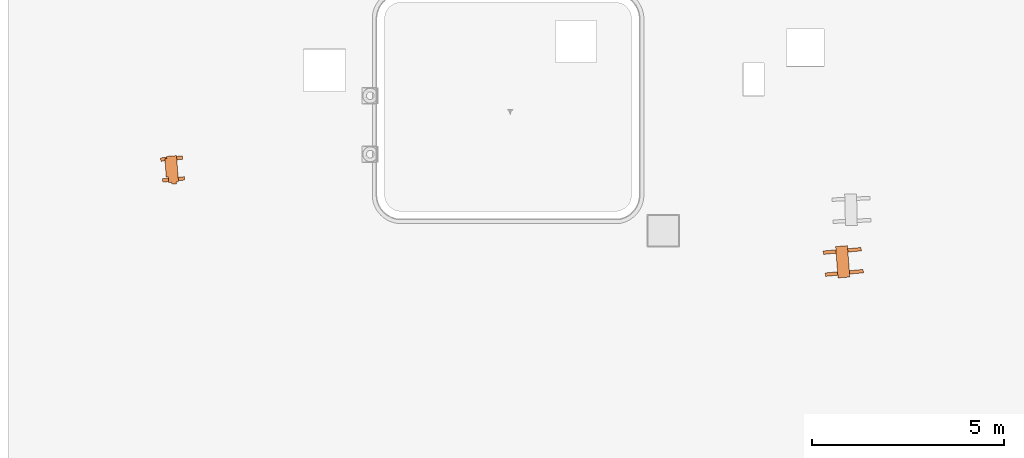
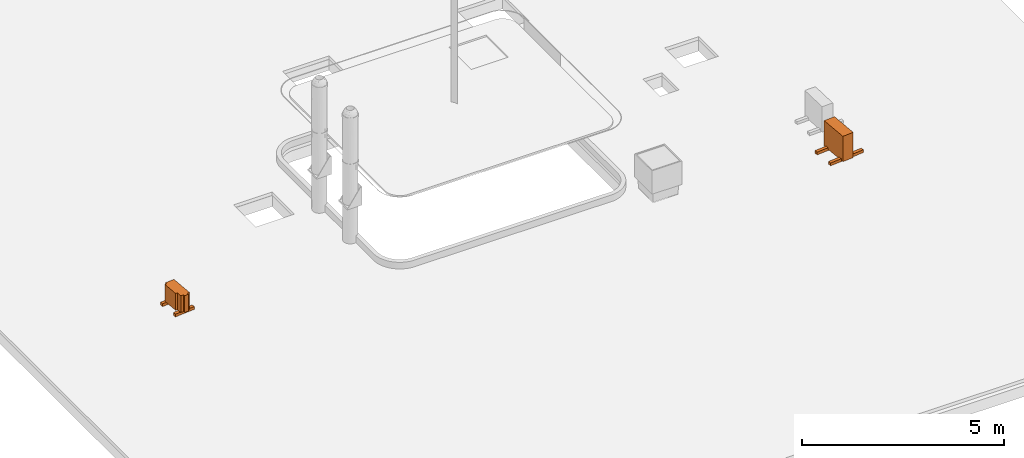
# One storey, part 2 of 2: 2 proxies.
"""IFC2X3 building model written with IfcOpenShell, lengths in metres."""

from ifc_helpers import new_model, entity, si_unit, converted_unit, derived_unit, direction, frame, frame_2d, origin, place, context, subcontext, project, spatial, polyline, rectangle, outline, extrude, source, transform, mapped, material, type_object, type_shapes, element, save


model = new_model("IFC2X3")

# Units and contexts
model_context = context("Model", 3, precision=1e-05, world=origin(), true_north=direction((6.12303176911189e-17, 1.0)))
body_context = subcontext(model_context, "Body", "Model", "MODEL_VIEW")
ifc_project = project(units=[si_unit("LENGTHUNIT", "METRE"), si_unit("AREAUNIT", "SQUARE_METRE"), si_unit("VOLUMEUNIT", "CUBIC_METRE"), converted_unit("PLANEANGLEUNIT", "DEGREE", entity("IfcRatioMeasure", 0.0174532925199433), si_unit("PLANEANGLEUNIT", "RADIAN"), dimensions=[0, 0, 0, 0, 0, 0, 0]), si_unit("MASSUNIT", "GRAM", prefix="KILO"), derived_unit("MASSDENSITYUNIT", [(si_unit("MASSUNIT", "GRAM", prefix="KILO"), 1), (si_unit("LENGTHUNIT", "METRE"), -3)]), derived_unit("MOMENTOFINERTIAUNIT", [(si_unit("LENGTHUNIT", "METRE"), 4)]), si_unit("TIMEUNIT", "SECOND"), si_unit("FREQUENCYUNIT", "HERTZ"), si_unit("THERMODYNAMICTEMPERATUREUNIT", "DEGREE_CELSIUS"), derived_unit("THERMALTRANSMITTANCEUNIT", [(si_unit("MASSUNIT", "GRAM", prefix="KILO"), 1), (si_unit("THERMODYNAMICTEMPERATUREUNIT", "KELVIN"), -1), (si_unit("TIMEUNIT", "SECOND"), -3)]), derived_unit("VOLUMETRICFLOWRATEUNIT", [(si_unit("LENGTHUNIT", "METRE"), 3), (si_unit("TIMEUNIT", "SECOND"), -1)]), si_unit("ELECTRICCURRENTUNIT", "AMPERE"), si_unit("ELECTRICVOLTAGEUNIT", "VOLT"), si_unit("POWERUNIT", "WATT"), si_unit("FORCEUNIT", "NEWTON", prefix="KILO"), si_unit("ILLUMINANCEUNIT", "LUX"), si_unit("LUMINOUSFLUXUNIT", "LUMEN"), si_unit("LUMINOUSINTENSITYUNIT", "CANDELA"), derived_unit("USERDEFINED", [(si_unit("MASSUNIT", "GRAM", prefix="KILO"), -1), (si_unit("LENGTHUNIT", "METRE"), -2), (si_unit("TIMEUNIT", "SECOND"), 3), (si_unit("LUMINOUSFLUXUNIT", "LUMEN"), 1)]), derived_unit("LINEARVELOCITYUNIT", [(si_unit("LENGTHUNIT", "METRE"), 1), (si_unit("TIMEUNIT", "SECOND"), -1)]), si_unit("PRESSUREUNIT", "PASCAL"), derived_unit("USERDEFINED", [(si_unit("LENGTHUNIT", "METRE"), -2), (si_unit("MASSUNIT", "GRAM", prefix="KILO"), 1), (si_unit("TIMEUNIT", "SECOND"), -2)]), derived_unit("LINEARFORCEUNIT", [(si_unit("MASSUNIT", "GRAM", prefix="KILO"), 1), (si_unit("LENGTHUNIT", "METRE"), 1), (si_unit("TIMEUNIT", "SECOND"), -2), (si_unit("LENGTHUNIT", "METRE"), -1)]), derived_unit("PLANARFORCEUNIT", [(si_unit("MASSUNIT", "GRAM", prefix="KILO"), 1), (si_unit("LENGTHUNIT", "METRE"), 1), (si_unit("TIMEUNIT", "SECOND"), -2), (si_unit("LENGTHUNIT", "METRE"), -2)])], contexts=[model_context])

# Site, building, storey
site_placement = place(None, origin())
site = spatial("IfcSite", under=ifc_project, at=site_placement, Name="Default", CompositionType="ELEMENT")
building_placement = place(site_placement, origin())
building = spatial("IfcBuilding", under=site, at=building_placement, CompositionType="ELEMENT")
storey_placement = place(building_placement, frame((0.0, 0.0, 10.7533082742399)))
storey = spatial("IfcBuildingStorey", under=building, at=storey_placement, Name="Niveau 3", CompositionType="ELEMENT", Elevation=10.7533082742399)

# Proxies
ifc_material = material(Name="@_Peinture Gris Anthracite")
building_element_proxy_type_1 = type_object("IfcBuildingElementProxyType", Name="Conduit Gaz1:Conduit Gaz", PredefinedType="NOTDEFINED", material=ifc_material)
shared_shape_1 = source(origin(), body_context, "Body", "SweptSolid", [
    extrude(rectangle(XDim=0.0900431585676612, YDim=0.992739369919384, at=frame_2d((1.07899800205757e-15, -1.11022302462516e-16), x_axis=(1.0, 0.0))), frame((-3.87860790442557, -9.84212219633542, 10.8533082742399), z_axis=(0.0, 0.0, 1.0), x_axis=(0.0928067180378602, -0.995684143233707, 0.0)), (0.0, 0.0, 1.0), 0.0838898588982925),
    extrude(rectangle(XDim=0.0900431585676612, YDim=0.992739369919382, at=frame_2d((-1.07899800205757e-15, 1.11022302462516e-16), x_axis=(1.0, 0.0))), frame((-3.82527076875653, -10.414353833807, 10.8533082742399), z_axis=(0.0, 0.0, 1.0), x_axis=(0.0928067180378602, -0.995684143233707, 0.0)), (0.0, 0.0, 1.0), 0.0838898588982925),
    extrude(rectangle(XDim=0.819999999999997, YDim=0.308590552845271, at=frame_2d((-5.55111512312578e-16, 2.77555756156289e-17), x_axis=(1.0, 0.0))), frame((-3.8666420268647, -10.1256578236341, 10.8894184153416), z_axis=(0.0, 0.0, 1.0), x_axis=(0.0754154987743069, -0.997152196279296, 0.0)), (0.0, 0.0, 1.0), 0.763889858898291),
])
type_shapes(building_element_proxy_type_1, [shared_shape_1])
proxy_1_placement = place(storey_placement, frame((0.0, 0.0, -10.7533082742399)))
element("IfcBuildingElementProxy", 1, at=proxy_1_placement, inside=storey, type_object=building_element_proxy_type_1, material=ifc_material, Name="Conduit Gaz1:Conduit Gaz", ObjectType="Conduit Gaz1:Conduit Gaz", context=body_context, shape_type="MappedRepresentation", body=[
    mapped(shared_shape_1, transform((0.0, 0.0, 0.0), scale=1.0)),
])
building_element_proxy_type_2 = type_object("IfcBuildingElementProxyType", Name="Conduit Gaz4:Conduit Gaz", PredefinedType="NOTDEFINED", material=ifc_material)
shared_shape_2 = source(origin(), body_context, "Body", "SweptSolid", [
    extrude(rectangle(XDim=0.090043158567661, YDim=0.571711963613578, at=frame_2d((-3.40005801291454e-16, 2.19269047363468e-15), x_axis=(1.0, 0.0))), frame((-21.3548248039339, -7.43575134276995, 10.8533082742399), z_axis=(0.0, 0.0, 1.0), x_axis=(0.0928067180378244, -0.99568414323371, 0.0)), (0.0, 0.0, 1.0), 0.0838898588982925),
    extrude(rectangle(XDim=0.0900431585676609, YDim=0.571711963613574, at=frame_2d((7.42461647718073e-16, 2.08166817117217e-15), x_axis=(1.0, 0.0))), frame((-21.304259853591, -7.97824137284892, 10.8533082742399), z_axis=(0.0, 0.0, 1.0), x_axis=(0.0928067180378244, -0.99568414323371, 0.0)), (0.0, 0.0, 1.0), 0.0838898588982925),
    extrude(outline(polyline([(-0.395100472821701, -0.131196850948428), (0.0850502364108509, -0.131196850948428), (0.0850502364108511, -0.0811968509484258), (0.235050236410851, -0.0811968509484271), (0.235050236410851, -0.00119685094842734), (0.285050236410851, -0.00119685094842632), (0.285050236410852, 0.117393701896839), (0.235050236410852, 0.117393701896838), (0.235050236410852, 0.177393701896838), (-0.445100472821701, 0.177393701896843), (-0.445100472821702, -0.0811968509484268), (-0.395100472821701, -0.0811968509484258), (-0.395100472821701, -0.131196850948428)])), frame((-21.3713605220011, -7.81618034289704, 10.9375316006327), z_axis=(0.0, 0.0, 1.0), x_axis=(0.0754154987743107, -0.997152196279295, 0.0)), (0.0, 0.0, 1.0), 0.506276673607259),
])
type_shapes(building_element_proxy_type_2, [shared_shape_2])
proxy_2_placement = place(storey_placement, frame((0.0, 0.0, -10.7533082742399)))
element("IfcBuildingElementProxy", 2, at=proxy_2_placement, inside=storey, type_object=building_element_proxy_type_2, material=ifc_material, Name="Conduit Gaz4:Conduit Gaz", ObjectType="Conduit Gaz4:Conduit Gaz", context=body_context, shape_type="MappedRepresentation", body=[
    mapped(shared_shape_2, transform((0.0, 0.0, 0.0), scale=1.0)),
])

save(model, "model.ifc")
